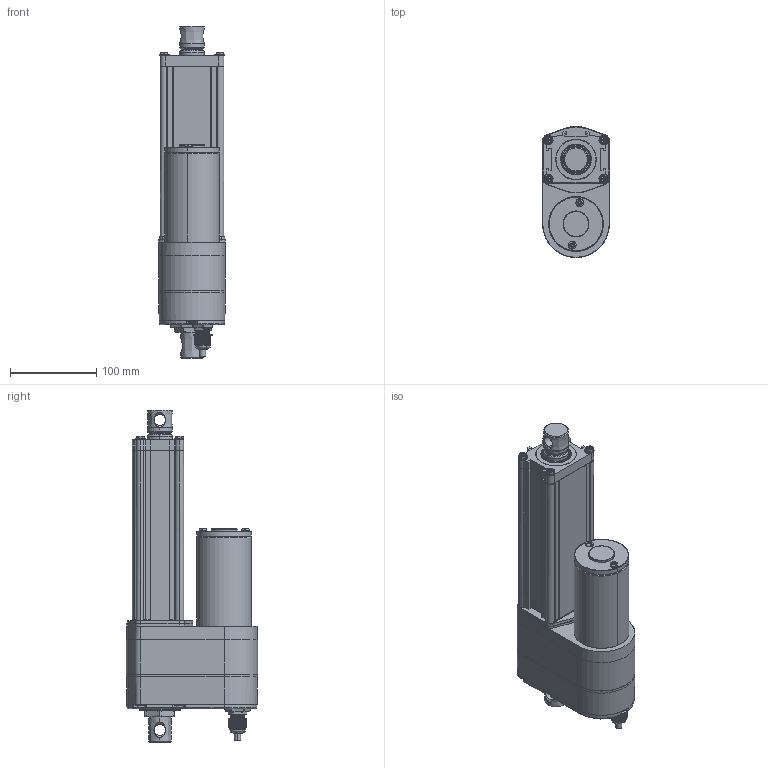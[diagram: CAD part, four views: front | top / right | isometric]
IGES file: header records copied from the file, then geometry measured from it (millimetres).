
Start section: SolidWorks IGES file using analytic representation for surfaces
Global section: file name: C:\Users\lynn\Desktop\工作用資料夾\3D CAD Models Community\0-給產品部\ID12\新增IP69K\ID12-B-100-POT-IP69K.IGS; native system: SolidWorks 2020; preprocessor: SolidWorks 2020; author: lynn; date: 221019.170847; units: millimetre
Bounding box: 77.3 x 151.8 x 384.5 mm (x, y, z)
Surface area: 225975.3 mm2 (no closed solid volume)
Topology: 0 solids, 0 shells, 2557 faces, 24308 edges, 24280 vertices
Faces by surface type: bspline 1641, revolution 916
